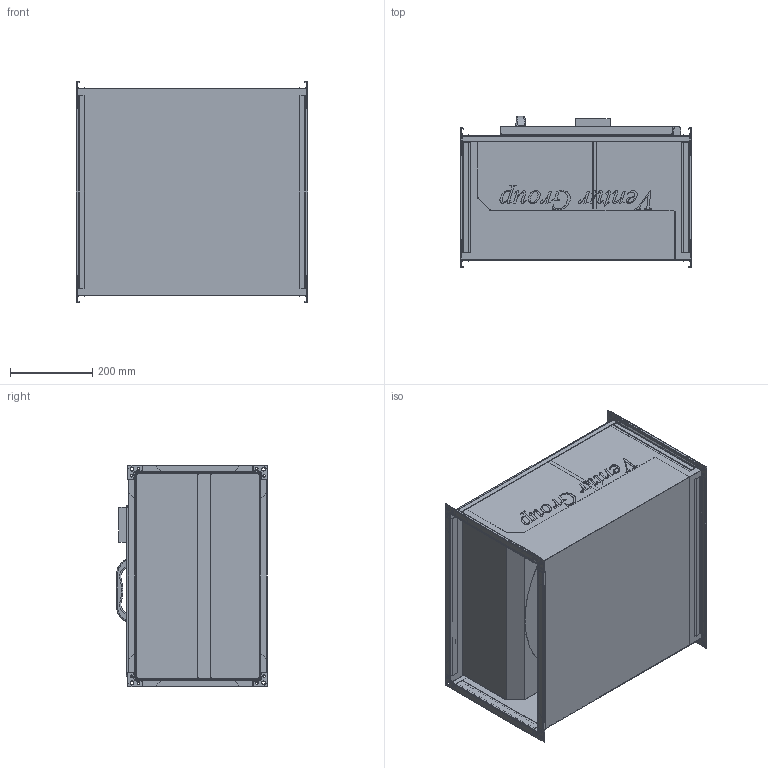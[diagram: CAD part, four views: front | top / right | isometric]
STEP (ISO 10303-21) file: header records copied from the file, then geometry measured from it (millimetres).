
FILE_DESCRIPTION(/* description */ (''),/* implementation_level */ '2;1');
FILE_NAME(/* name */ 'C:\Users\M.Janczarek\Documents\Modele uproszczone\IBF\IBF6_315S 41010070 (90)\IBF4_315T 41010090\IBF6_315S 41010070.stp',/* time_stamp */ '2018-03-23T09:35:23+01:00',/* author */ ('M.Janczarek'),/* organization */ (''),/* preprocessor_version */ 'ST-DEVELOPER v16.5',/* originating_system */ 'Autodesk Inventor 2017',/* authorisation */ '');
FILE_SCHEMA (('AUTOMOTIVE_DESIGN { 1 0 10303 214 3 1 1 }'));
Products named in the file (1): IBF4_315T 41010090
Bounding box: 564.6 x 367.99 x 539.97 mm (x, y, z)
Volume: 15630027.7 mm3; surface area: 4389107.4 mm2
Topology: 26 solids, 26 shells, 1377 faces, 3913 edges, 2616 vertices
Faces by surface type: plane 803, bspline 316, cylinder 258
Full cylindrical faces by diameter (mm): 6 x16, 9 x8, 210 x1, 320 x1
Entity records: 52449 total; most frequent: CARTESIAN_POINT 17228, ORIENTED_EDGE 7790, DIRECTION 5909, EDGE_CURVE 3895, LINE 2709, VECTOR 2709, VERTEX_POINT 2624, AXIS2_PLACEMENT_3D 1600
